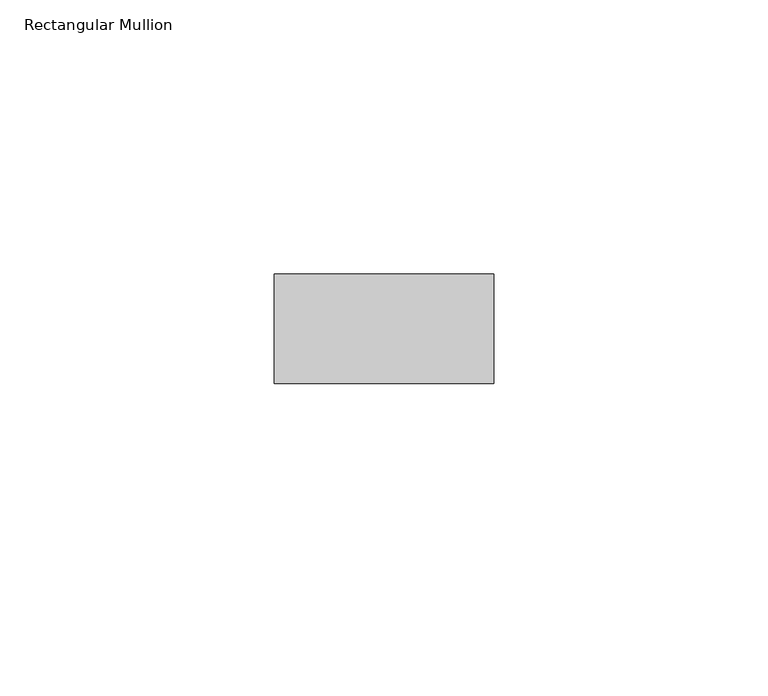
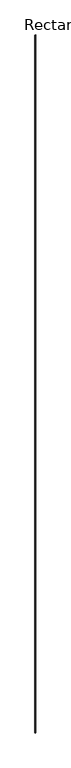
"""IFC4 building model written with IfcOpenShell, lengths in millimetres: member geometry, Rectangular Mullion : RIPA 4x2 cm."""

from ifc_helpers import new_model, si_unit, frame, origin, place, context, project, spatial, polyline, outline, extrude, source, transform, mapped, element, save


def rectangular_mullion_45a51e1d(model_context):
    return source(origin(), model_context, "Body", "SweptSolid", [
        extrude(outline(polyline([(20.0, 0.0), (20.0, -20.0), (-20.0, -20.0), (-20.0, 0.0), (20.0, 0.0)])), frame((0.0, 0.0, -39607.3272084), z_axis=(0.0, 0.0, 1.0), x_axis=(1.0, 0.0, 0.0)), (0.0, 0.0, 1.0), 39607.3272084),
    ])


if __name__ == "__main__":
    model = new_model("IFC4")
    model_context = context("Model", 3, world=origin())
    ifc_project = project(units=[si_unit("LENGTHUNIT", "METRE", prefix="MILLI")], contexts=[model_context])
    site = spatial("IfcSite", under=ifc_project)
    building = spatial("IfcBuilding", under=site)
    placement = place(None, origin())
    rectangular_mullion_shape = rectangular_mullion_45a51e1d(model_context)
    element("IfcMember", 1, ObjectType="Rectangular Mullion : RIPA 4x2 cm", at=placement, inside=building, context=model_context, shape_type="MappedRepresentation", body=[
        mapped(rectangular_mullion_shape, transform((0.0, 0.0, 0.0), x_axis=(1.0, 0.0, 0.0), y_axis=(0.0, 1.0, 0.0), z_axis=(0.0, 0.0, 1.0))),
    ])
    save(model, "model.ifc")
